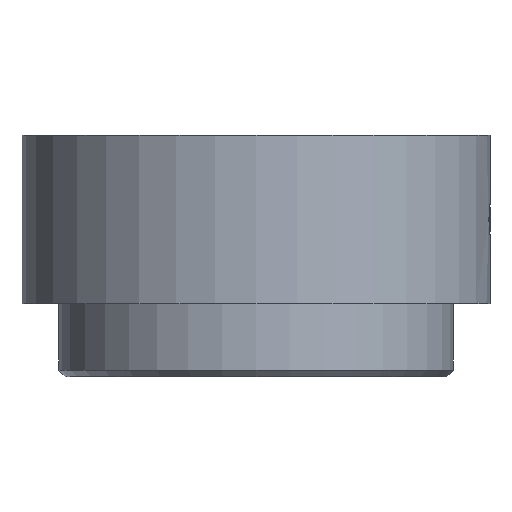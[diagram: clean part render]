
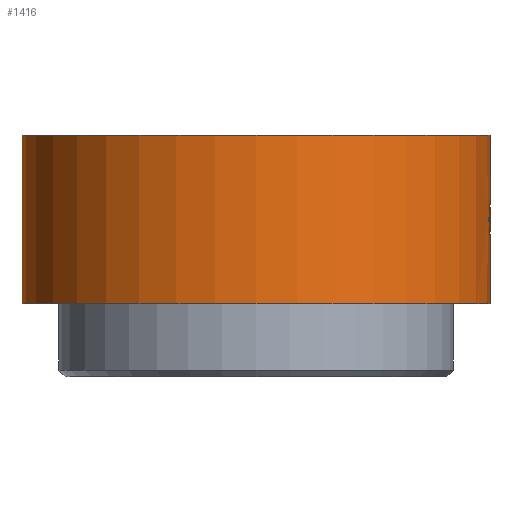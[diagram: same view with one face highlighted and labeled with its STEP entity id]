
A CAD part, front view. The second image highlights one B-rep face of the part: STEP entity #1416.
In plain terms, the highlighted cylindrical face has radius 32 mm (diameter 64 mm), a partial arc.
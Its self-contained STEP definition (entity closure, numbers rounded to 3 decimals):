
#161 = CARTESIAN_POINT ( 'NONE',  ( 31.818, -3.41, -11.5 ) ) ;
#185 = CARTESIAN_POINT ( 'NONE',  ( -32., 0., -23. ) ) ;
#186 = CARTESIAN_POINT ( 'NONE',  ( 32., 0., -23. ) ) ;
#202 = CARTESIAN_POINT ( 'NONE',  ( 32., 0., 0. ) ) ;
#203 = CARTESIAN_POINT ( 'NONE',  ( 32., 0., -13.5 ) ) ;
#209 = LINE ( 'NONE', #216, #215 ) ;
#211 = CARTESIAN_POINT ( 'NONE',  ( -32., 0., 0. ) ) ;
#214 = DIRECTION ( 'NONE',  ( 0., 0., 1. ) ) ;
#215 = VECTOR ( 'NONE', #214, 1000. ) ;
#216 = CARTESIAN_POINT ( 'NONE',  ( 32., 0., 0. ) ) ;
#242 = DIRECTION ( 'NONE',  ( 0., 0., 1. ) ) ;
#243 = VECTOR ( 'NONE', #242, 1000. ) ;
#244 = CARTESIAN_POINT ( 'NONE',  ( 32., 0., 0. ) ) ;
#245 = LINE ( 'NONE', #244, #243 ) ;
#318 = CARTESIAN_POINT ( 'NONE',  ( 32., 0., -9.5 ) ) ;
#374 = LINE ( 'NONE', #378, #377 ) ;
#376 = DIRECTION ( 'NONE',  ( 0., 0., 1. ) ) ;
#377 = VECTOR ( 'NONE', #376, 1000. ) ;
#378 = CARTESIAN_POINT ( 'NONE',  ( -32., 0., 0. ) ) ;
#405 = CIRCLE ( 'NONE', #419, 32. ) ;
#416 = B_SPLINE_CURVE_WITH_KNOTS ( 'NONE', 3,
 ( #444, #443, #442, #441 ),
 .UNSPECIFIED., .F., .F.,
 ( 4, 4 ),
 ( 0., 1. ),
 .UNSPECIFIED. ) ;
#417 = DIRECTION ( 'NONE',  ( 0., 0., 1. ) ) ;
#418 = CARTESIAN_POINT ( 'NONE',  ( 0., 0., -13.5 ) ) ;
#419 = AXIS2_PLACEMENT_3D ( 'NONE', #418, #417, #469 ) ;
#422 = CYLINDRICAL_SURFACE ( 'NONE', #451, 32. ) ;
#423 = FACE_OUTER_BOUND ( 'NONE', #1417, .T. ) ;
#441 = CARTESIAN_POINT ( 'NONE',  ( 31.896, -2.582, -13.5 ) ) ;
#442 = CARTESIAN_POINT ( 'NONE',  ( 31.873, -2.858, -12.833 ) ) ;
#443 = CARTESIAN_POINT ( 'NONE',  ( 31.847, -3.134, -12.166 ) ) ;
#444 = CARTESIAN_POINT ( 'NONE',  ( 31.818, -3.41, -11.5 ) ) ;
#450 = DIRECTION ( 'NONE',  ( 0., 0., 1. ) ) ;
#451 = AXIS2_PLACEMENT_3D ( 'NONE', #471, #450, #461 ) ;
#461 = DIRECTION ( 'NONE',  ( 1., 0., 0. ) ) ;
#468 = CARTESIAN_POINT ( 'NONE',  ( 31.896, -2.582, -13.5 ) ) ;
#469 = DIRECTION ( 'NONE',  ( 1., 0., 0. ) ) ;
#471 = CARTESIAN_POINT ( 'NONE',  ( 0., 0., 0. ) ) ;
#655 = CIRCLE ( 'NONE', #656, 32. ) ;
#656 = AXIS2_PLACEMENT_3D ( 'NONE', #660, #659, #658 ) ;
#658 = DIRECTION ( 'NONE',  ( 1., 0., 0. ) ) ;
#659 = DIRECTION ( 'NONE',  ( 0., 0., 1. ) ) ;
#660 = CARTESIAN_POINT ( 'NONE',  ( 0., 0., -23. ) ) ;
#715 = DIRECTION ( 'NONE',  ( 1., 0., 0. ) ) ;
#716 = DIRECTION ( 'NONE',  ( 0., 0., 1. ) ) ;
#717 = CARTESIAN_POINT ( 'NONE',  ( 0., 0., 0. ) ) ;
#718 = AXIS2_PLACEMENT_3D ( 'NONE', #717, #716, #715 ) ;
#756 = CIRCLE ( 'NONE', #718, 32. ) ;
#778 = AXIS2_PLACEMENT_3D ( 'NONE', #871, #870, #869 ) ;
#779 = CIRCLE ( 'NONE', #778, 32. ) ;
#857 = CARTESIAN_POINT ( 'NONE',  ( 31.896, -2.582, -9.5 ) ) ;
#863 = CARTESIAN_POINT ( 'NONE',  ( 31.818, -3.41, -11.5 ) ) ;
#864 = CARTESIAN_POINT ( 'NONE',  ( 31.847, -3.134, -10.834 ) ) ;
#865 = CARTESIAN_POINT ( 'NONE',  ( 31.873, -2.858, -10.167 ) ) ;
#866 = CARTESIAN_POINT ( 'NONE',  ( 31.896, -2.582, -9.5 ) ) ;
#868 = B_SPLINE_CURVE_WITH_KNOTS ( 'NONE', 3,
 ( #866, #865, #864, #863 ),
 .UNSPECIFIED., .F., .F.,
 ( 4, 4 ),
 ( 0., 1. ),
 .UNSPECIFIED. ) ;
#869 = DIRECTION ( 'NONE',  ( 0., 1., 0. ) ) ;
#870 = DIRECTION ( 'NONE',  ( 0., 0., -1. ) ) ;
#871 = CARTESIAN_POINT ( 'NONE',  ( 0., 0., -9.5 ) ) ;
#1272 = VERTEX_POINT ( 'NONE', #161 ) ;
#1280 = VERTEX_POINT ( 'NONE', #186 ) ;
#1281 = VERTEX_POINT ( 'NONE', #185 ) ;
#1347 = VERTEX_POINT ( 'NONE', #318 ) ;
#1350 = VERTEX_POINT ( 'NONE', #211 ) ;
#1354 = VERTEX_POINT ( 'NONE', #202 ) ;
#1361 = VERTEX_POINT ( 'NONE', #203 ) ;
#1362 = EDGE_CURVE ( 'NONE', #1280, #1361, #209, .T. ) ;
#1367 = EDGE_CURVE ( 'NONE', #1347, #1354, #245, .T. ) ;
#1384 = EDGE_CURVE ( 'NONE', #1281, #1350, #374, .T. ) ;
#1406 = ORIENTED_EDGE ( 'NONE', *, *, #1362, .T. ) ;
#1407 = ORIENTED_EDGE ( 'NONE', *, *, #1408, .F. ) ;
#1408 = EDGE_CURVE ( 'NONE', #1409, #1361, #405, .T. ) ;
#1409 = VERTEX_POINT ( 'NONE', #468 ) ;
#1410 = ORIENTED_EDGE ( 'NONE', *, *, #1411, .F. ) ;
#1411 = EDGE_CURVE ( 'NONE', #1272, #1409, #416, .T. ) ;
#1416 = ADVANCED_FACE ( 'NONE', ( #423 ), #422, .T. ) ;
#1417 = EDGE_LOOP ( 'NONE', ( #1574, #1575, #1406, #1407, #1410, #1526, #1571, #1572, #1518 ) ) ;
#1452 = EDGE_CURVE ( 'NONE', #1281, #1280, #655, .T. ) ;
#1516 = EDGE_CURVE ( 'NONE', #1350, #1354, #756, .T. ) ;
#1518 = ORIENTED_EDGE ( 'NONE', *, *, #1516, .F. ) ;
#1525 = VERTEX_POINT ( 'NONE', #857 ) ;
#1526 = ORIENTED_EDGE ( 'NONE', *, *, #1573, .F. ) ;
#1569 = EDGE_CURVE ( 'NONE', #1347, #1525, #779, .T. ) ;
#1571 = ORIENTED_EDGE ( 'NONE', *, *, #1569, .F. ) ;
#1572 = ORIENTED_EDGE ( 'NONE', *, *, #1367, .T. ) ;
#1573 = EDGE_CURVE ( 'NONE', #1525, #1272, #868, .T. ) ;
#1574 = ORIENTED_EDGE ( 'NONE', *, *, #1384, .F. ) ;
#1575 = ORIENTED_EDGE ( 'NONE', *, *, #1452, .T. ) ;
